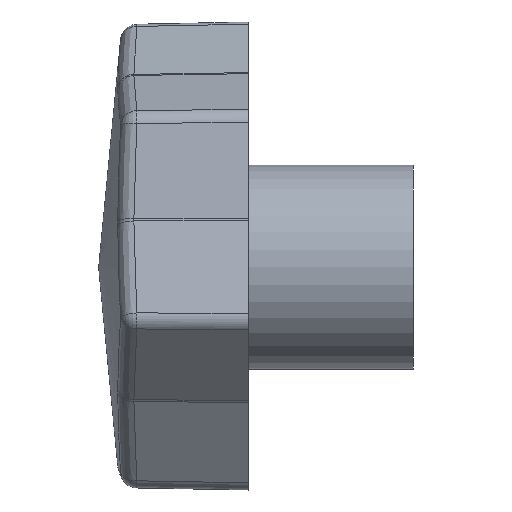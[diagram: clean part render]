
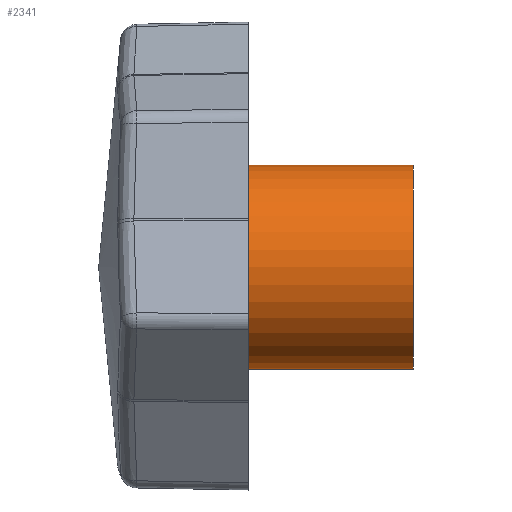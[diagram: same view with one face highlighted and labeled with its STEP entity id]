
A CAD part, left-side view. The second image highlights one B-rep face of the part: STEP entity #2341.
In plain terms, the highlighted cylindrical face has radius 13 mm (diameter 26 mm), a partial arc.
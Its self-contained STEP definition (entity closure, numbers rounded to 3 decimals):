
#152 = CARTESIAN_POINT ( 'NONE',  ( 0., -21., 0. ) ) ;
#216 = CARTESIAN_POINT ( 'NONE',  ( 0., -21., -13. ) ) ;
#252 = EDGE_CURVE ( 'NONE', #2758, #3567, #3785, .T. ) ;
#468 = DIRECTION ( 'NONE',  ( 0., 0., 1. ) ) ;
#477 = DIRECTION ( 'NONE',  ( 0., 0., -1. ) ) ;
#481 = DIRECTION ( 'NONE',  ( 0., -1., 0. ) ) ;
#501 = CARTESIAN_POINT ( 'NONE',  ( 0., 11.721, 0. ) ) ;
#508 = CARTESIAN_POINT ( 'NONE',  ( 0., 11.721, 13. ) ) ;
#617 = EDGE_CURVE ( 'NONE', #2758, #2220, #2950, .T. ) ;
#734 = EDGE_LOOP ( 'NONE', ( #2808, #822, #2257, #2029 ) ) ;
#822 = ORIENTED_EDGE ( 'NONE', *, *, #252, .T. ) ;
#829 = DIRECTION ( 'NONE',  ( 0., -1., 0. ) ) ;
#876 = CARTESIAN_POINT ( 'NONE',  ( 0., 19.001, -13. ) ) ;
#925 = DIRECTION ( 'NONE',  ( 0., 0., -1. ) ) ;
#933 = LINE ( 'NONE', #876, #3737 ) ;
#1103 = EDGE_CURVE ( 'NONE', #3567, #2119, #933, .T. ) ;
#1191 = AXIS2_PLACEMENT_3D ( 'NONE', #152, #2206, #468 ) ;
#1260 = DIRECTION ( 'NONE',  ( 0., -1., 0. ) ) ;
#1440 = CARTESIAN_POINT ( 'NONE',  ( 0., -21., 13. ) ) ;
#1504 = VECTOR ( 'NONE', #1260, 1000. ) ;
#1679 = FACE_OUTER_BOUND ( 'NONE', #734, .T. ) ;
#1798 = AXIS2_PLACEMENT_3D ( 'NONE', #501, #481, #477 ) ;
#2029 = ORIENTED_EDGE ( 'NONE', *, *, #2689, .T. ) ;
#2071 = CARTESIAN_POINT ( 'NONE',  ( 0., 19.001, 0. ) ) ;
#2119 = VERTEX_POINT ( 'NONE', #216 ) ;
#2206 = DIRECTION ( 'NONE',  ( 0., 1., 0. ) ) ;
#2220 = VERTEX_POINT ( 'NONE', #1440 ) ;
#2257 = ORIENTED_EDGE ( 'NONE', *, *, #1103, .T. ) ;
#2341 = ADVANCED_FACE ( 'NONE', ( #1679 ), #3134, .T. ) ;
#2645 = DIRECTION ( 'NONE',  ( 0., -1., 0. ) ) ;
#2689 = EDGE_CURVE ( 'NONE', #2119, #2220, #3584, .T. ) ;
#2726 = CARTESIAN_POINT ( 'NONE',  ( 0., 11.721, -13. ) ) ;
#2758 = VERTEX_POINT ( 'NONE', #508 ) ;
#2808 = ORIENTED_EDGE ( 'NONE', *, *, #617, .F. ) ;
#2867 = AXIS2_PLACEMENT_3D ( 'NONE', #2071, #2645, #925 ) ;
#2950 = LINE ( 'NONE', #3369, #1504 ) ;
#3134 = CYLINDRICAL_SURFACE ( 'NONE', #2867, 13. ) ;
#3369 = CARTESIAN_POINT ( 'NONE',  ( 0., 19.001, 13. ) ) ;
#3567 = VERTEX_POINT ( 'NONE', #2726 ) ;
#3584 = CIRCLE ( 'NONE', #1191, 13. ) ;
#3737 = VECTOR ( 'NONE', #829, 1000. ) ;
#3785 = CIRCLE ( 'NONE', #1798, 13. ) ;
